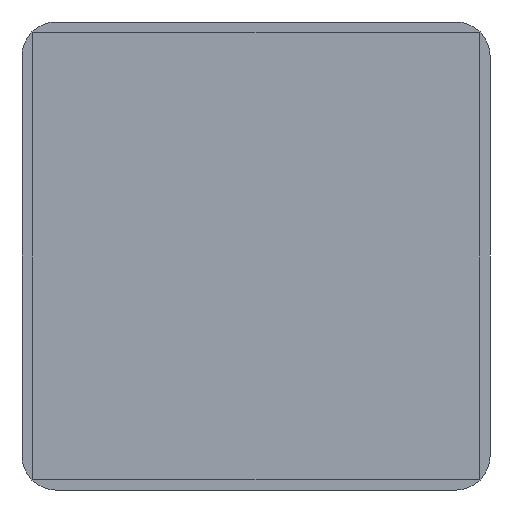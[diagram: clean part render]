
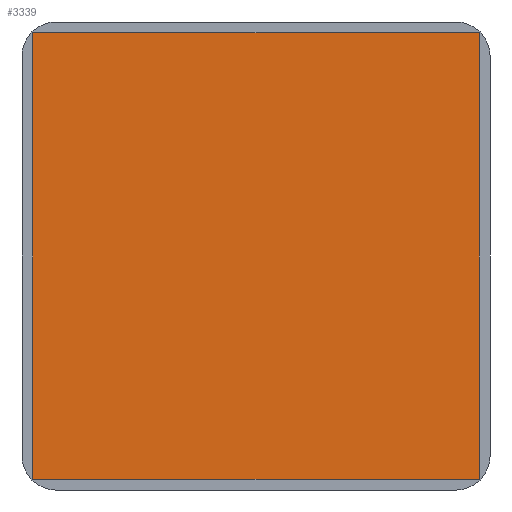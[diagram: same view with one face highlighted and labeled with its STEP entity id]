
A CAD part, front view. The second image highlights one B-rep face of the part: STEP entity #3339.
In plain terms, the highlighted planar face has unit normal (0, -1, 0).
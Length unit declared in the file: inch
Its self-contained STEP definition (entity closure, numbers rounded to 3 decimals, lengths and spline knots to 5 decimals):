
#127 = VECTOR ( 'NONE', #4274, 39.37008 ) ;
#343 = CARTESIAN_POINT ( 'NONE',  ( 0.64961, -0.005, 0.64961 ) ) ;
#416 = DIRECTION ( 'NONE',  ( 1., 0., 0. ) ) ;
#474 = ORIENTED_EDGE ( 'NONE', *, *, #4353, .F. ) ;
#478 = CARTESIAN_POINT ( 'NONE',  ( 0.64961, -0.005, -0.64961 ) ) ;
#751 = EDGE_CURVE ( 'NONE', #7305, #3015, #5354, .T. ) ;
#1042 = LINE ( 'NONE', #3661, #3206 ) ;
#1377 = FACE_OUTER_BOUND ( 'NONE', #7230, .T. ) ;
#1488 = VERTEX_POINT ( 'NONE', #478 ) ;
#2123 = VECTOR ( 'NONE', #416, 39.37008 ) ;
#2673 = ORIENTED_EDGE ( 'NONE', *, *, #751, .F. ) ;
#2939 = EDGE_CURVE ( 'NONE', #1488, #7305, #4246, .T. ) ;
#3015 = VERTEX_POINT ( 'NONE', #5042 ) ;
#3049 = DIRECTION ( 'NONE',  ( 0., 0., -1. ) ) ;
#3185 = VERTEX_POINT ( 'NONE', #343 ) ;
#3206 = VECTOR ( 'NONE', #3049, 39.37008 ) ;
#3339 = ADVANCED_FACE ( 'NONE', ( #1377 ), #7014, .F. ) ;
#3542 = ORIENTED_EDGE ( 'NONE', *, *, #5767, .F. ) ;
#3602 = DIRECTION ( 'NONE',  ( -1., 0., 0. ) ) ;
#3661 = CARTESIAN_POINT ( 'NONE',  ( 0.64961, -0.005, -0.64961 ) ) ;
#3850 = DIRECTION ( 'NONE',  ( 0., 1., 0. ) ) ;
#3958 = LINE ( 'NONE', #5951, #2123 ) ;
#4145 = VECTOR ( 'NONE', #3602, 39.37008 ) ;
#4168 = CARTESIAN_POINT ( 'NONE',  ( -0.64961, -0.005, -0.64961 ) ) ;
#4246 = LINE ( 'NONE', #4168, #4145 ) ;
#4274 = DIRECTION ( 'NONE',  ( 0., 0., 1. ) ) ;
#4353 = EDGE_CURVE ( 'NONE', #3015, #3185, #3958, .T. ) ;
#4414 = AXIS2_PLACEMENT_3D ( 'NONE', #7595, #3850, #5190 ) ;
#5042 = CARTESIAN_POINT ( 'NONE',  ( -0.64961, -0.005, 0.64961 ) ) ;
#5190 = DIRECTION ( 'NONE',  ( 0., 0., 1. ) ) ;
#5208 = ORIENTED_EDGE ( 'NONE', *, *, #2939, .F. ) ;
#5354 = LINE ( 'NONE', #6594, #127 ) ;
#5767 = EDGE_CURVE ( 'NONE', #3185, #1488, #1042, .T. ) ;
#5951 = CARTESIAN_POINT ( 'NONE',  ( -0.64961, -0.005, 0.64961 ) ) ;
#6340 = CARTESIAN_POINT ( 'NONE',  ( -0.64961, -0.005, -0.64961 ) ) ;
#6594 = CARTESIAN_POINT ( 'NONE',  ( -0.64961, -0.005, -0.64961 ) ) ;
#7014 = PLANE ( 'NONE',  #4414 ) ;
#7230 = EDGE_LOOP ( 'NONE', ( #2673, #5208, #3542, #474 ) ) ;
#7305 = VERTEX_POINT ( 'NONE', #6340 ) ;
#7595 = CARTESIAN_POINT ( 'NONE',  ( -0.64961, -0.005, 0.64961 ) ) ;
